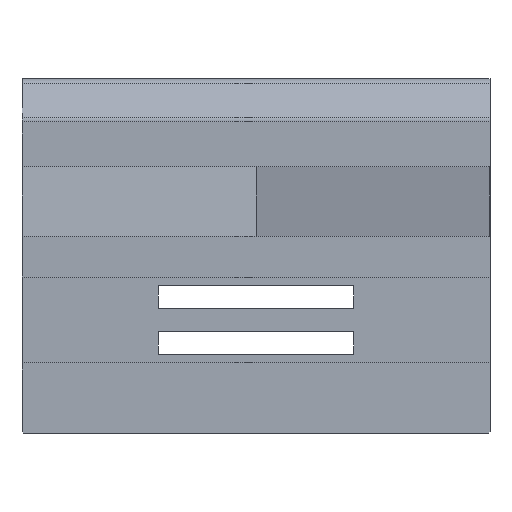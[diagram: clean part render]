
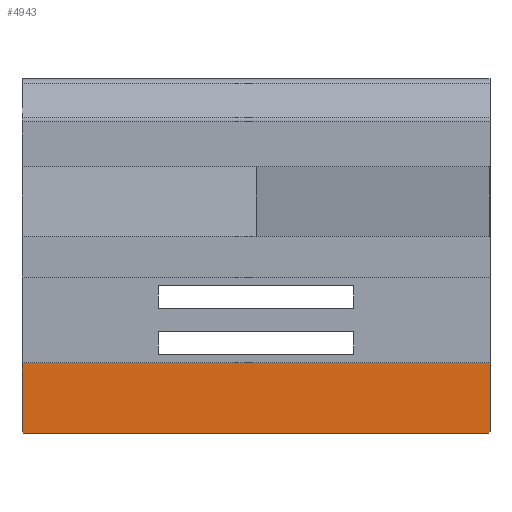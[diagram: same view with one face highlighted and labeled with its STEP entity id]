
A CAD part, front view. The second image highlights one B-rep face of the part: STEP entity #4943.
In plain terms, the highlighted planar face has unit normal (0, -1, 0).
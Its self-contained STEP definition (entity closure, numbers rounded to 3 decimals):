
#110 = CARTESIAN_POINT ( 'NONE',  ( -310., -120., 40. ) ) ;
#216 = AXIS2_PLACEMENT_3D ( 'NONE', #1411, #5369, #5401 ) ;
#349 = VECTOR ( 'NONE', #1308, 1000. ) ;
#563 = VECTOR ( 'NONE', #1275, 1000. ) ;
#856 = LINE ( 'NONE', #5923, #1476 ) ;
#990 = DIRECTION ( 'NONE',  ( -1., 0., 0. ) ) ;
#1063 = CARTESIAN_POINT ( 'NONE',  ( -310., -120., 111.5 ) ) ;
#1064 = EDGE_CURVE ( 'NONE', #1352, #5473, #3130, .T. ) ;
#1172 = EDGE_CURVE ( 'NONE', #1921, #4542, #5887, .T. ) ;
#1275 = DIRECTION ( 'NONE',  ( 0.707, 0., -0.707 ) ) ;
#1308 = DIRECTION ( 'NONE',  ( 0.707, 0., 0.707 ) ) ;
#1352 = VERTEX_POINT ( 'NONE', #110 ) ;
#1375 = FACE_OUTER_BOUND ( 'NONE', #4902, .T. ) ;
#1382 = CARTESIAN_POINT ( 'NONE',  ( 180., -120., 40. ) ) ;
#1411 = CARTESIAN_POINT ( 'NONE',  ( -310., -120., 364.067 ) ) ;
#1450 = CARTESIAN_POINT ( 'NONE',  ( -310., -120., 38. ) ) ;
#1476 = VECTOR ( 'NONE', #990, 1000. ) ;
#1781 = DIRECTION ( 'NONE',  ( 0., 0., -1. ) ) ;
#1813 = EDGE_CURVE ( 'NONE', #5278, #1352, #2021, .T. ) ;
#1921 = VERTEX_POINT ( 'NONE', #3624 ) ;
#1944 = LINE ( 'NONE', #1450, #3360 ) ;
#1959 = PLANE ( 'NONE',  #216 ) ;
#2012 = ORIENTED_EDGE ( 'NONE', *, *, #3204, .T. ) ;
#2021 = LINE ( 'NONE', #4009, #6207 ) ;
#2093 = VERTEX_POINT ( 'NONE', #4828 ) ;
#2335 = CARTESIAN_POINT ( 'NONE',  ( -308., -120., 38. ) ) ;
#2620 = ORIENTED_EDGE ( 'NONE', *, *, #4592, .T. ) ;
#3040 = EDGE_CURVE ( 'NONE', #2093, #4542, #4284, .T. ) ;
#3130 = LINE ( 'NONE', #6103, #563 ) ;
#3204 = EDGE_CURVE ( 'NONE', #5473, #1921, #1944, .T. ) ;
#3303 = CARTESIAN_POINT ( 'NONE',  ( 180., -120., 364.067 ) ) ;
#3360 = VECTOR ( 'NONE', #3428, 1000. ) ;
#3428 = DIRECTION ( 'NONE',  ( 1., 0., 0. ) ) ;
#3624 = CARTESIAN_POINT ( 'NONE',  ( 178., -120., 38. ) ) ;
#4009 = CARTESIAN_POINT ( 'NONE',  ( -310., -120., 364.067 ) ) ;
#4270 = ORIENTED_EDGE ( 'NONE', *, *, #3040, .F. ) ;
#4284 = LINE ( 'NONE', #3303, #5041 ) ;
#4371 = ORIENTED_EDGE ( 'NONE', *, *, #1172, .T. ) ;
#4542 = VERTEX_POINT ( 'NONE', #1382 ) ;
#4578 = DIRECTION ( 'NONE',  ( 0., 0., -1. ) ) ;
#4592 = EDGE_CURVE ( 'NONE', #2093, #5278, #856, .T. ) ;
#4828 = CARTESIAN_POINT ( 'NONE',  ( 180., -120., 111.5 ) ) ;
#4902 = EDGE_LOOP ( 'NONE', ( #4270, #2620, #6102, #5746, #2012, #4371 ) ) ;
#4943 = ADVANCED_FACE ( 'NONE', ( #1375 ), #1959, .T. ) ;
#5041 = VECTOR ( 'NONE', #1781, 1000. ) ;
#5278 = VERTEX_POINT ( 'NONE', #1063 ) ;
#5369 = DIRECTION ( 'NONE',  ( 0., -1., 0. ) ) ;
#5401 = DIRECTION ( 'NONE',  ( 0., 0., -1. ) ) ;
#5473 = VERTEX_POINT ( 'NONE', #2335 ) ;
#5746 = ORIENTED_EDGE ( 'NONE', *, *, #1064, .T. ) ;
#5760 = CARTESIAN_POINT ( 'NONE',  ( 97.034, -120., -42.966 ) ) ;
#5887 = LINE ( 'NONE', #5760, #349 ) ;
#5923 = CARTESIAN_POINT ( 'NONE',  ( -310., -120., 111.5 ) ) ;
#6102 = ORIENTED_EDGE ( 'NONE', *, *, #1813, .T. ) ;
#6103 = CARTESIAN_POINT ( 'NONE',  ( -472.034, -120., 202.034 ) ) ;
#6207 = VECTOR ( 'NONE', #4578, 1000. ) ;
